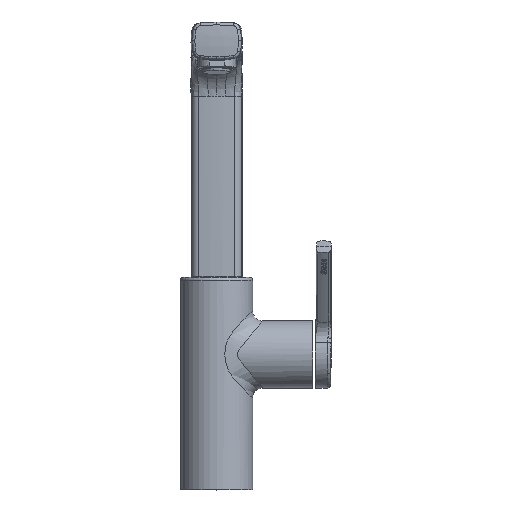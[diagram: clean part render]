
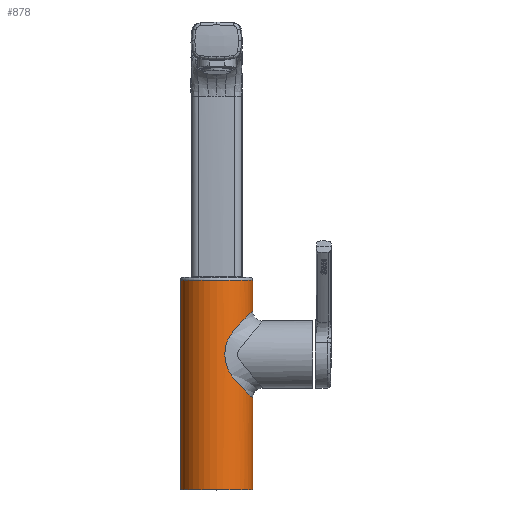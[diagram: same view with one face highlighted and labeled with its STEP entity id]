
A CAD part, top view. The second image highlights one B-rep face of the part: STEP entity #878.
In plain terms, the highlighted cylindrical face has radius 22.5 mm (diameter 45 mm), a partial arc.
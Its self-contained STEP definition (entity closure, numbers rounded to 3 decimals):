
#16=CARTESIAN_POINT('',(22.5,57.5,0.));
#78=CARTESIAN_POINT('',(22.5,111.5,0.));
#108=DIRECTION('',(0.,1.,0.));
#109=VECTOR('',#108,130.731);
#110=CARTESIAN_POINT('',(-22.5,0.,0.));
#111=LINE('',#110,#109);
#112=CARTESIAN_POINT('',(0.,130.731,0.));
#113=DIRECTION('',(0.,1.,0.));
#114=DIRECTION('',(-1.,0.,0.));
#115=AXIS2_PLACEMENT_3D('',#112,#113,#114);
#117=DIRECTION('',(0.,1.,0.));
#118=VECTOR('',#117,19.231);
#119=CARTESIAN_POINT('',(22.5,111.5,0.));
#120=LINE('',#119,#118);
#121=CARTESIAN_POINT('',(22.5,111.5,0.));
#122=CARTESIAN_POINT('',(22.5,111.5,0.261));
#123=CARTESIAN_POINT('',(22.491,111.494,0.79));
#124=CARTESIAN_POINT('',(22.448,111.463,1.595));
#125=CARTESIAN_POINT('',(22.374,111.408,2.427));
#126=CARTESIAN_POINT('',(22.263,111.323,3.303));
#127=CARTESIAN_POINT('',(22.103,111.199,4.248));
#128=CARTESIAN_POINT('',(21.88,111.02,5.285));
#129=CARTESIAN_POINT('',(21.573,110.768,6.435));
#130=CARTESIAN_POINT('',(21.144,110.402,7.739));
#131=CARTESIAN_POINT('',(20.589,109.912,9.115));
#132=CARTESIAN_POINT('',(19.942,109.32,10.457));
#133=CARTESIAN_POINT('',(19.188,108.61,11.784));
#134=CARTESIAN_POINT('',(18.339,107.786,13.067));
#135=CARTESIAN_POINT('',(17.377,106.822,14.323));
#136=CARTESIAN_POINT('',(16.291,105.704,15.549));
#137=CARTESIAN_POINT('',(15.083,104.421,16.726));
#138=CARTESIAN_POINT('',(13.707,102.927,17.873));
#139=CARTESIAN_POINT('',(12.253,101.302,18.897));
#140=CARTESIAN_POINT('',(10.85,99.654,19.729));
#141=CARTESIAN_POINT('',(9.695,98.17,20.315));
#142=CARTESIAN_POINT('',(8.696,96.717,20.76));
#143=CARTESIAN_POINT('',(7.829,95.257,21.1));
#144=CARTESIAN_POINT('',(7.079,93.757,21.361));
#145=CARTESIAN_POINT('',(6.478,92.287,21.55));
#146=CARTESIAN_POINT('',(6.039,90.962,21.675));
#147=CARTESIAN_POINT('',(5.726,89.789,21.76));
#148=CARTESIAN_POINT('',(5.505,88.757,21.816));
#149=CARTESIAN_POINT('',(5.346,87.83,21.856));
#150=CARTESIAN_POINT('',(5.206,86.724,21.89));
#151=CARTESIAN_POINT('',(5.127,85.638,21.908));
#152=CARTESIAN_POINT('',(5.098,84.669,21.915));
#153=CARTESIAN_POINT('',(5.116,83.561,21.911));
#154=CARTESIAN_POINT('',(5.183,82.551,21.895));
#155=CARTESIAN_POINT('',(5.285,81.581,21.871));
#156=CARTESIAN_POINT('',(5.444,80.514,21.832));
#157=CARTESIAN_POINT('',(5.682,79.34,21.771));
#158=CARTESIAN_POINT('',(5.993,78.142,21.688));
#159=CARTESIAN_POINT('',(6.443,76.767,21.56));
#160=CARTESIAN_POINT('',(7.052,75.291,21.37));
#161=CARTESIAN_POINT('',(7.786,73.829,21.115));
#162=CARTESIAN_POINT('',(8.663,72.35,20.774));
#163=CARTESIAN_POINT('',(9.696,70.844,20.316));
#164=CARTESIAN_POINT('',(10.89,69.3,19.708));
#165=CARTESIAN_POINT('',(12.285,67.652,18.875));
#166=CARTESIAN_POINT('',(13.691,66.083,17.885));
#167=CARTESIAN_POINT('',(15.082,64.577,16.728));
#168=CARTESIAN_POINT('',(16.293,63.294,15.547));
#169=CARTESIAN_POINT('',(17.394,62.16,14.303));
#170=CARTESIAN_POINT('',(18.347,61.201,13.054));
#171=CARTESIAN_POINT('',(19.188,60.385,11.783));
#172=CARTESIAN_POINT('',(19.939,59.68,10.462));
#173=CARTESIAN_POINT('',(20.588,59.089,9.118));
#174=CARTESIAN_POINT('',(21.144,58.599,7.737));
#175=CARTESIAN_POINT('',(21.573,58.234,6.435));
#176=CARTESIAN_POINT('',(21.88,57.981,5.285));
#177=CARTESIAN_POINT('',(22.103,57.802,4.248));
#178=CARTESIAN_POINT('',(22.262,57.678,3.303));
#179=CARTESIAN_POINT('',(22.374,57.592,2.427));
#180=CARTESIAN_POINT('',(22.448,57.537,1.595));
#181=CARTESIAN_POINT('',(22.491,57.506,0.79));
#182=CARTESIAN_POINT('',(22.5,57.5,0.261));
#183=CARTESIAN_POINT('',(22.5,57.5,0.));
#185=DIRECTION('',(0.,1.,0.));
#186=VECTOR('',#185,57.5);
#187=CARTESIAN_POINT('',(22.5,0.,0.));
#188=LINE('',#187,#186);
#189=CARTESIAN_POINT('',(0.,0.,0.));
#190=DIRECTION('',(0.,-1.,0.));
#191=DIRECTION('',(1.,0.,0.));
#192=AXIS2_PLACEMENT_3D('',#189,#190,#191);
#365=CARTESIAN_POINT('',(22.5,0.,0.));
#366=CARTESIAN_POINT('',(-22.5,0.,0.));
#367=VERTEX_POINT('',#365);
#368=VERTEX_POINT('',#366);
#381=CARTESIAN_POINT('',(22.5,130.731,0.));
#382=CARTESIAN_POINT('',(-22.5,130.731,0.));
#383=VERTEX_POINT('',#381);
#384=VERTEX_POINT('',#382);
#385=VERTEX_POINT('',#16);
#386=VERTEX_POINT('',#78);
#863=CARTESIAN_POINT('',(0.,-6.645,0.));
#864=DIRECTION('',(0.,1.,0.));
#865=DIRECTION('',(1.,0.,0.));
#866=AXIS2_PLACEMENT_3D('',#863,#864,#865);
#867=CYLINDRICAL_SURFACE('',#866,22.5);
#868=ORIENTED_EDGE('',*,*,#798,.T.);
#869=ORIENTED_EDGE('',*,*,#857,.T.);
#870=ORIENTED_EDGE('',*,*,#805,.F.);
#872=ORIENTED_EDGE('',*,*,#871,.T.);
#873=ORIENTED_EDGE('',*,*,#802,.F.);
#875=ORIENTED_EDGE('',*,*,#874,.T.);
#876=EDGE_LOOP('',(#868,#869,#870,#872,#873,#875));
#877=FACE_OUTER_BOUND('',#876,.F.);
#878=ADVANCED_FACE('',(#877),#867,.T.);
#116=CIRCLE('',#115,22.5);
#184=B_SPLINE_CURVE_WITH_KNOTS('',3,(#121,#122,#123,#124,#125,#126,#127,#128,
#129,#130,#131,#132,#133,#134,#135,#136,#137,#138,#139,#140,#141,#142,#143,#144,
#145,#146,#147,#148,#149,#150,#151,#152,#153,#154,#155,#156,#157,#158,#159,#160,
#161,#162,#163,#164,#165,#166,#167,#168,#169,#170,#171,#172,#173,#174,#175,#176,
#177,#178,#179,#180,#181,#182,#183),.UNSPECIFIED.,.F.,.F.,(4,1,1,1,1,1,1,1,1,1,
1,1,1,1,1,1,1,1,1,1,1,1,1,1,1,1,1,1,1,1,1,1,1,1,1,1,1,1,1,1,1,1,1,1,1,1,1,1,1,1,
1,1,1,1,1,1,1,1,1,1,4),(0.,0.017,0.033,0.05,
0.067,0.083,0.1,0.117,0.133,
0.15,0.167,0.183,0.2,0.217,
0.233,0.25,0.267,0.283,0.3,
0.317,0.333,0.35,0.367,0.383,
0.4,0.417,0.433,0.45,0.467,
0.483,0.5,0.517,0.533,0.55,
0.567,0.583,0.6,0.617,0.633,
0.65,0.667,0.683,0.7,0.717,
0.733,0.75,0.767,0.783,0.8,
0.817,0.833,0.85,0.867,0.883,
0.9,0.917,0.933,0.95,0.967,
0.983,1.),.UNSPECIFIED.);
#193=CIRCLE('',#192,22.5);
#798=EDGE_CURVE('',#368,#384,#111,.T.);
#802=EDGE_CURVE('',#367,#385,#188,.T.);
#805=EDGE_CURVE('',#386,#383,#120,.T.);
#857=EDGE_CURVE('',#384,#383,#116,.T.);
#871=EDGE_CURVE('',#386,#385,#184,.T.);
#874=EDGE_CURVE('',#367,#368,#193,.T.);
